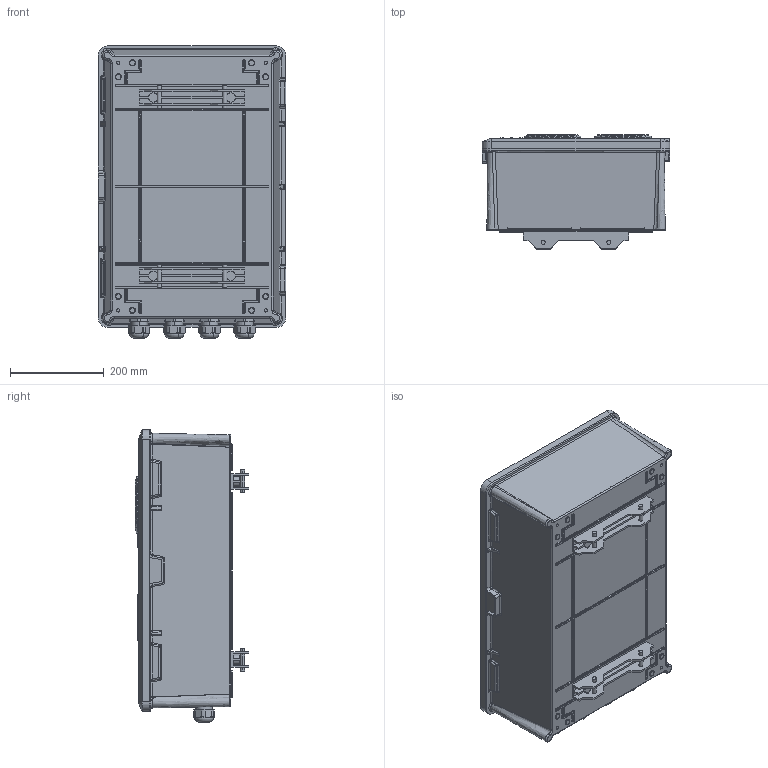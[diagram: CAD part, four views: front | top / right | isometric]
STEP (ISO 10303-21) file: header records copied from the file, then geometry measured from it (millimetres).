
FILE_DESCRIPTION(('TFLEX Exchange Step'),'2;1');
FILE_NAME('X2\0422\X0\406020Б-22.stp', '2022-11-08T13:22:44+03:00',('melekhin'),('Unknown organisation'),'TFLEX Exchange 2019.0','T-FLEX CAD','Unknown authorisation');
FILE_SCHEMA( ('AUTOMOTIVE_DESIGN { 1 0 10303 214 1 1 1 1 }') );
Length unit declared in the file: millimetre
Products named in the file (40): DIN-рейка 35x7.5; Винт самонарезающий 4,2х16 DIN 7504 M оц; Кронштейн металлический для DIN-рейки 270 (Т); Панель монтажная металлическая 40х60 (Т); Винт М 3.5x9x5; Окошко для двери круглое О-93 (И); <Корпуса (Т)>Корпуса Et:114; <Корпуса (Т)>Корпуса Et:101; <Корпуса (Т)>Корпуса Et:100; <Корпуса (Т)>Корпуса Et:99; <Корпуса (Т)>Корпуса Et:98; <Корпуса (Т)>Корпуса Et:97; <Корпуса (Т)>Корпуса Et:96; <Корпуса (Т)>Корпуса Et:89; <Корпуса (Т)>Корпуса Et:87; <Корпуса (Т)>Корпуса Et:86; <Корпуса (Т)>Корпуса Et:74; <Корпуса (Т)>Корпуса Et:73; <Корпуса (Т)>Корпуса Et:72; <Корпуса (Т)>Корпуса Et:71; <Корпуса (Т)>Корпуса Et:70; <Корпуса (Т)>Корпуса Et:69; <Корпуса (Т)>Корпуса Et:68; <Корпуса (Т)>Корпуса Et:67; <Корпуса (Т)>Корпуса Et:66; <Корпуса (Т)>Корпуса Et:65; <Корпуса (Т)>Корпуса Et:64; <Корпуса (Т)>Корпуса Et:63; <Корпуса (Т)>Корпуса Et:62; <Корпуса (Т)>Корпуса Et:61; <Корпуса (Т)>Корпуса Et:60; <Корпуса (Т)>Корпуса Et:59; <Корпуса (Т)>Корпуса Et:58; <Корпуса (Т)>Корпуса Et:57; <Корпуса (Т)>Корпуса Et:2; <Корпуса (Т)>Корпуса Et; <Оргстекло>Оргстекло прозрачное с вырезом 40x60 (Т); BUFFER:000000EDD99FC6F0 
Assembly tree (121 placements, depth 5):
  BUFFER:000000EDD99FC6F0 
    <Корпуса (Т)>Корпуса Et
      DIN-рейка 35x7.5
      Кронштейн металлический для DIN-рейки 270 (Т)
        Винт самонарезающий 4,2х16 DIN 7504 M оц  x4
      Панель монтажная металлическая 40х60 (Т)
      Окошко для двери круглое О-93 (И)
        Винт М 3.5x9x5  x4
          Винт М 3.5x9x5
        Окошко для двери круглое О-93 (И)
      <Корпуса (Т)>Корпуса Et:114  x4
      <Корпуса (Т)>Корпуса Et:101  x2
      <Корпуса (Т)>Корпуса Et:100  x2
      <Корпуса (Т)>Корпуса Et:99  x2
      <Корпуса (Т)>Корпуса Et:98  x2
      <Корпуса (Т)>Корпуса Et:97  x2
      <Корпуса (Т)>Корпуса Et:96  x2
      <Корпуса (Т)>Корпуса Et:89  x2
      <Корпуса (Т)>Корпуса Et:87  x4
      <Корпуса (Т)>Корпуса Et:86  x4
      Винт М 3.5x9x5  x4
      Окошко для двери круглое О-93 (И)
      <Корпуса (Т)>Корпуса Et:74  x4
      <Корпуса (Т)>Корпуса Et:73  x4
      <Корпуса (Т)>Корпуса Et:72  x4
      <Корпуса (Т)>Корпуса Et:71  x4
      <Корпуса (Т)>Корпуса Et:70  x4
      <Корпуса (Т)>Корпуса Et:69  x4
      <Корпуса (Т)>Корпуса Et:68  x4
      <Корпуса (Т)>Корпуса Et:67  x4
      <Корпуса (Т)>Корпуса Et:66  x4
      <Корпуса (Т)>Корпуса Et:65  x4
      <Корпуса (Т)>Корпуса Et:64  x4
      <Корпуса (Т)>Корпуса Et:63  x4
      <Корпуса (Т)>Корпуса Et:62  x4
      <Корпуса (Т)>Корпуса Et:61  x4
      <Корпуса (Т)>Корпуса Et:60  x4
      <Корпуса (Т)>Корпуса Et:59  x4
      <Корпуса (Т)>Корпуса Et:58  x4
      <Корпуса (Т)>Корпуса Et:57  x4
      <Корпуса (Т)>Корпуса Et:2  x2
    <Оргстекло>Оргстекло прозрачное с вырезом 40x60 (Т)
Bounding box: 400 x 243 x 623 mm (x, y, z)
Volume: 5274989.8 mm3; surface area: 2776754.5 mm2
Topology: 62 solids, 130 shells, 3123 faces, 8148 edges, 5220 vertices
Faces by surface type: plane 1619, cylinder 835, bspline 261, cone 210, torus 147, sphere 51
Full cylindrical faces by diameter (mm): 3 x4, 3.999 x1, 4 x20, 5.5 x4, 6 x4, 8 x8, 9.9 x2, 10 x6, 10.05 x2, 12 x4, 12.55 x2, 13 x2, 13.001 x2, 13.5 x2, 15.67 x2, 16 x2, 16.25 x2, 16.45 x2, 19.6 x2, 22 x2, 30 x2, 36 x4, 110 x2, 121 x2
Entity records: 114595 total; most frequent: CARTESIAN_POINT 63489, ORIENTED_EDGE 10603, DIRECTION 9916, EDGE_CURVE 5350, AXIS2_PLACEMENT_3D 3488, VERTEX_POINT 3426, VECTOR 2940, LINE 2940
